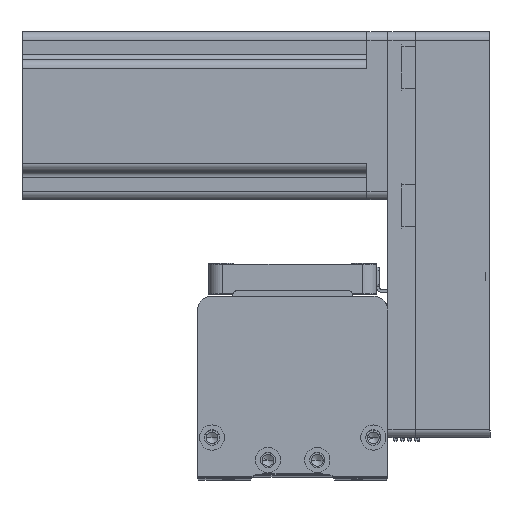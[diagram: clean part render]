
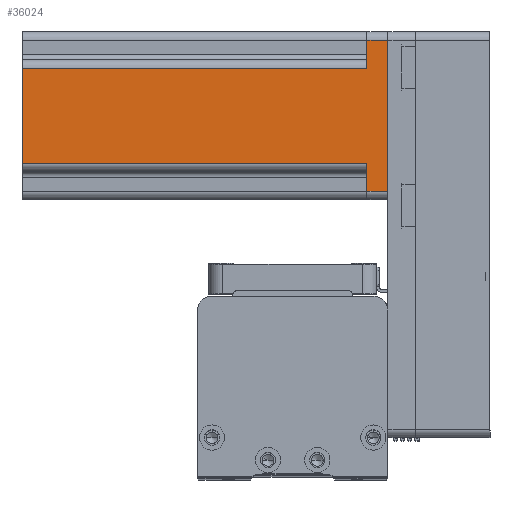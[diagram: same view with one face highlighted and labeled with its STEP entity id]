
A CAD part, top view. The second image highlights one B-rep face of the part: STEP entity #36024.
In plain terms, the highlighted planar face has unit normal (0, 0, 1) as drawn and (0, -1, 0) by its records, which use the part's own axes.
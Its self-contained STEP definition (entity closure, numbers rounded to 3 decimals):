
#257 = FACE_OUTER_BOUND ( 'NONE', #26092, .T. ) ;
#3409 = LINE ( 'NONE', #14024, #27729 ) ;
#4022 = DIRECTION ( 'NONE',  ( 0., 1., 0. ) ) ;
#4256 = CARTESIAN_POINT ( 'NONE',  ( 30., -30., 130.7 ) ) ;
#5241 = CARTESIAN_POINT ( 'NONE',  ( -17., -30., 130.7 ) ) ;
#6635 = VECTOR ( 'NONE', #12454, 1000. ) ;
#7686 = LINE ( 'NONE', #15758, #6635 ) ;
#7921 = CARTESIAN_POINT ( 'NONE',  ( -17., -30., 130.7 ) ) ;
#8749 = LINE ( 'NONE', #7921, #42920 ) ;
#8892 = CARTESIAN_POINT ( 'NONE',  ( -17., -30., 7.5 ) ) ;
#9790 = VECTOR ( 'NONE', #30765, 1000. ) ;
#10837 = LINE ( 'NONE', #4256, #9790 ) ;
#11302 = CARTESIAN_POINT ( 'NONE',  ( -27., -30., 130.7 ) ) ;
#12454 = DIRECTION ( 'NONE',  ( 0., 0., 1. ) ) ;
#12952 = DIRECTION ( 'NONE',  ( 1., 0., 0. ) ) ;
#13251 = ORIENTED_EDGE ( 'NONE', *, *, #20774, .F. ) ;
#14024 = CARTESIAN_POINT ( 'NONE',  ( 30., -30., 0. ) ) ;
#14280 = ORIENTED_EDGE ( 'NONE', *, *, #39182, .T. ) ;
#14472 = LINE ( 'NONE', #39410, #31085 ) ;
#15758 = CARTESIAN_POINT ( 'NONE',  ( 17., -30., 130.7 ) ) ;
#17297 = CARTESIAN_POINT ( 'NONE',  ( 20., -30., 7.5 ) ) ;
#17339 = DIRECTION ( 'NONE',  ( 1., 0., 0. ) ) ;
#17486 = CARTESIAN_POINT ( 'NONE',  ( -27., -30., 7.5 ) ) ;
#18350 = CARTESIAN_POINT ( 'NONE',  ( 17., -30., 7.5 ) ) ;
#18912 = VERTEX_POINT ( 'NONE', #18350 ) ;
#19777 = VECTOR ( 'NONE', #37149, 1000. ) ;
#19886 = CARTESIAN_POINT ( 'NONE',  ( 17., -30., 130.7 ) ) ;
#20710 = ORIENTED_EDGE ( 'NONE', *, *, #22934, .T. ) ;
#20774 = EDGE_CURVE ( 'NONE', #35019, #30192, #14472, .T. ) ;
#22801 = ORIENTED_EDGE ( 'NONE', *, *, #40640, .T. ) ;
#22934 = EDGE_CURVE ( 'NONE', #37215, #30192, #8749, .T. ) ;
#23849 = CARTESIAN_POINT ( 'NONE',  ( 30., -30., 130.7 ) ) ;
#24006 = CARTESIAN_POINT ( 'NONE',  ( 27., -30., 0. ) ) ;
#24172 = CARTESIAN_POINT ( 'NONE',  ( -27., -30., 0. ) ) ;
#26092 = EDGE_LOOP ( 'NONE', ( #39145, #20710, #13251, #22801, #42790, #29867, #33578, #14280 ) ) ;
#26290 = LINE ( 'NONE', #39591, #41820 ) ;
#27027 = PLANE ( 'NONE',  #34756 ) ;
#27178 = DIRECTION ( 'NONE',  ( -1., 0., 0. ) ) ;
#27729 = VECTOR ( 'NONE', #17339, 1000. ) ;
#29329 = EDGE_CURVE ( 'NONE', #31368, #35020, #3409, .T. ) ;
#29867 = ORIENTED_EDGE ( 'NONE', *, *, #42939, .T. ) ;
#30192 = VERTEX_POINT ( 'NONE', #8892 ) ;
#30278 = VECTOR ( 'NONE', #34324, 1000. ) ;
#30765 = DIRECTION ( 'NONE',  ( 1., 0., 0. ) ) ;
#31085 = VECTOR ( 'NONE', #12952, 1000. ) ;
#31095 = DIRECTION ( 'NONE',  ( 0., 0., -1. ) ) ;
#31368 = VERTEX_POINT ( 'NONE', #24172 ) ;
#31746 = CARTESIAN_POINT ( 'NONE',  ( 27., -30., 7.5 ) ) ;
#33151 = DIRECTION ( 'NONE',  ( 0., 0., 1. ) ) ;
#33578 = ORIENTED_EDGE ( 'NONE', *, *, #41353, .T. ) ;
#34324 = DIRECTION ( 'NONE',  ( 0., 0., -1. ) ) ;
#34756 = AXIS2_PLACEMENT_3D ( 'NONE', #23849, #4022, #27178 ) ;
#35019 = VERTEX_POINT ( 'NONE', #17486 ) ;
#35020 = VERTEX_POINT ( 'NONE', #24006 ) ;
#36024 = ADVANCED_FACE ( 'NONE', ( #257 ), #27027, .F. ) ;
#37149 = DIRECTION ( 'NONE',  ( -1., 0., 0. ) ) ;
#37215 = VERTEX_POINT ( 'NONE', #5241 ) ;
#37390 = LINE ( 'NONE', #17297, #19777 ) ;
#38175 = EDGE_CURVE ( 'NONE', #37215, #39970, #10837, .T. ) ;
#39145 = ORIENTED_EDGE ( 'NONE', *, *, #38175, .F. ) ;
#39182 = EDGE_CURVE ( 'NONE', #18912, #39970, #7686, .T. ) ;
#39410 = CARTESIAN_POINT ( 'NONE',  ( -20., -30., 7.5 ) ) ;
#39591 = CARTESIAN_POINT ( 'NONE',  ( 27., -30., 130.7 ) ) ;
#39970 = VERTEX_POINT ( 'NONE', #19886 ) ;
#40304 = VERTEX_POINT ( 'NONE', #31746 ) ;
#40640 = EDGE_CURVE ( 'NONE', #35019, #31368, #41106, .T. ) ;
#41106 = LINE ( 'NONE', #11302, #30278 ) ;
#41353 = EDGE_CURVE ( 'NONE', #40304, #18912, #37390, .T. ) ;
#41820 = VECTOR ( 'NONE', #33151, 1000. ) ;
#42790 = ORIENTED_EDGE ( 'NONE', *, *, #29329, .T. ) ;
#42920 = VECTOR ( 'NONE', #31095, 1000. ) ;
#42939 = EDGE_CURVE ( 'NONE', #35020, #40304, #26290, .T. ) ;
